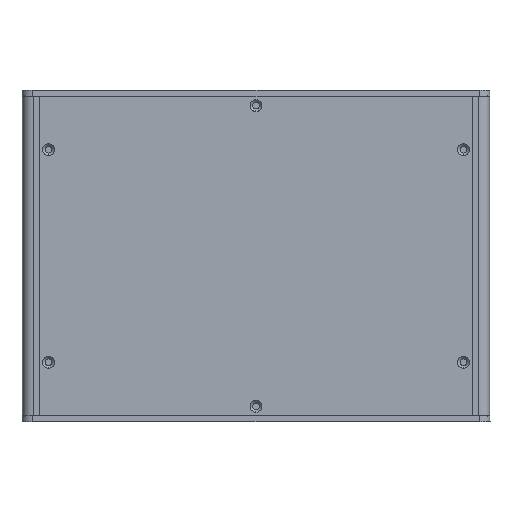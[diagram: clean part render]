
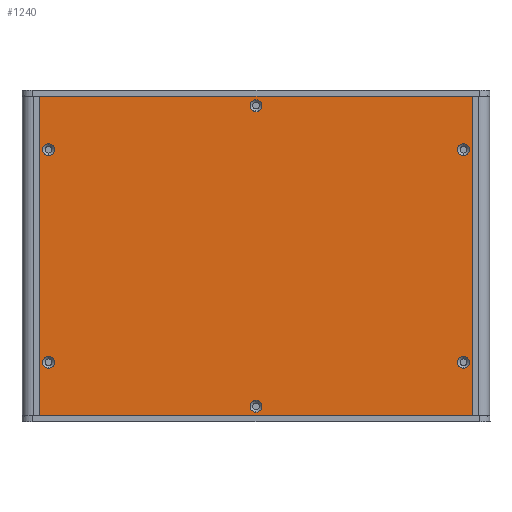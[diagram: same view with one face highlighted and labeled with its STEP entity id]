
A CAD part, front view. The second image highlights one B-rep face of the part: STEP entity #1240.
In plain terms, the highlighted planar face has unit normal (0, -1, 0) as drawn and (0, 1, 0) by its records, which use the part's own axes.
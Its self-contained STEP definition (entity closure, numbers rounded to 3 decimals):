
#4 = CARTESIAN_POINT ( 'NONE',  ( 0., 0.75, 70.7 ) ) ;
#118 = AXIS2_PLACEMENT_3D ( 'NONE', #3362, #3426, #4374 ) ;
#139 = EDGE_CURVE ( 'NONE', #534, #1957, #2498, .T. ) ;
#190 = VERTEX_POINT ( 'NONE', #906 ) ;
#219 = AXIS2_PLACEMENT_3D ( 'NONE', #4440, #3947, #2240 ) ;
#261 = CIRCLE ( 'NONE', #5099, 2.8 ) ;
#304 = AXIS2_PLACEMENT_3D ( 'NONE', #2742, #4607, #1965 ) ;
#319 = CARTESIAN_POINT ( 'NONE',  ( 0., 0.75, -73.5 ) ) ;
#362 = EDGE_CURVE ( 'NONE', #5701, #4571, #5600, .T. ) ;
#415 = ORIENTED_EDGE ( 'NONE', *, *, #2242, .F. ) ;
#419 = CARTESIAN_POINT ( 'NONE',  ( 0., 0.75, 73.5 ) ) ;
#460 = EDGE_CURVE ( 'NONE', #1957, #534, #960, .T. ) ;
#496 = DIRECTION ( 'NONE',  ( 0., -1., 0. ) ) ;
#534 = VERTEX_POINT ( 'NONE', #5718 ) ;
#545 = DIRECTION ( 'NONE',  ( -1., 0., 0. ) ) ;
#554 = CARTESIAN_POINT ( 'NONE',  ( -97.5, 0.75, 47.2 ) ) ;
#567 = CARTESIAN_POINT ( 'NONE',  ( -97.5, 0.75, 52.8 ) ) ;
#612 = VERTEX_POINT ( 'NONE', #419 ) ;
#685 = DIRECTION ( 'NONE',  ( 0., 0., 1. ) ) ;
#714 = VECTOR ( 'NONE', #5290, 1000. ) ;
#794 = VERTEX_POINT ( 'NONE', #2417 ) ;
#906 = CARTESIAN_POINT ( 'NONE',  ( -101.6, 0.75, 75. ) ) ;
#960 = CIRCLE ( 'NONE', #979, 2.8 ) ;
#979 = AXIS2_PLACEMENT_3D ( 'NONE', #5183, #2066, #2931 ) ;
#985 = CARTESIAN_POINT ( 'NONE',  ( 0., 0.75, -70.7 ) ) ;
#1003 = CARTESIAN_POINT ( 'NONE',  ( -97.5, 0.75, -52.8 ) ) ;
#1157 = CARTESIAN_POINT ( 'NONE',  ( -101.6, 0.75, -75. ) ) ;
#1199 = VERTEX_POINT ( 'NONE', #3785 ) ;
#1240 = ADVANCED_FACE ( 'NONE', ( #2800, #3240, #3300, #4636, #5104, #1906, #2768 ), #4226, .T. ) ;
#1245 = EDGE_CURVE ( 'NONE', #4200, #3097, #2687, .T. ) ;
#1257 = VERTEX_POINT ( 'NONE', #4546 ) ;
#1320 = CARTESIAN_POINT ( 'NONE',  ( 97.5, 0.75, -50. ) ) ;
#1340 = EDGE_CURVE ( 'NONE', #4581, #1199, #1832, .T. ) ;
#1380 = DIRECTION ( 'NONE',  ( 0., -1., 0. ) ) ;
#1395 = DIRECTION ( 'NONE',  ( 0., 0., 1. ) ) ;
#1441 = CARTESIAN_POINT ( 'NONE',  ( 101.6, 0.75, -75. ) ) ;
#1460 = AXIS2_PLACEMENT_3D ( 'NONE', #2125, #2097, #4827 ) ;
#1479 = DIRECTION ( 'NONE',  ( 0., 0., 1. ) ) ;
#1498 = EDGE_CURVE ( 'NONE', #1257, #612, #4872, .T. ) ;
#1751 = CARTESIAN_POINT ( 'NONE',  ( 0., 0.75, 70.7 ) ) ;
#1793 = VECTOR ( 'NONE', #685, 1000. ) ;
#1831 = ORIENTED_EDGE ( 'NONE', *, *, #5427, .T. ) ;
#1832 = CIRCLE ( 'NONE', #118, 2.8 ) ;
#1847 = CARTESIAN_POINT ( 'NONE',  ( 97.5, 0.75, 52.8 ) ) ;
#1848 = CARTESIAN_POINT ( 'NONE',  ( -97.5, 0.75, -50. ) ) ;
#1906 = FACE_BOUND ( 'NONE', #3599, .T. ) ;
#1957 = VERTEX_POINT ( 'NONE', #5501 ) ;
#1965 = DIRECTION ( 'NONE',  ( 0., 0., 1. ) ) ;
#1988 = DIRECTION ( 'NONE',  ( 0., -1., 0. ) ) ;
#2066 = DIRECTION ( 'NONE',  ( 0., -1., 0. ) ) ;
#2097 = DIRECTION ( 'NONE',  ( 0., -1., 0. ) ) ;
#2114 = CARTESIAN_POINT ( 'NONE',  ( -97.5, 0.75, -47.2 ) ) ;
#2125 = CARTESIAN_POINT ( 'NONE',  ( -97.5, 0.75, 50. ) ) ;
#2203 = EDGE_CURVE ( 'NONE', #612, #1257, #3748, .T. ) ;
#2220 = VECTOR ( 'NONE', #545, 1000. ) ;
#2240 = DIRECTION ( 'NONE',  ( 0., 0., 1. ) ) ;
#2242 = EDGE_CURVE ( 'NONE', #2501, #190, #2816, .T. ) ;
#2401 = EDGE_CURVE ( 'NONE', #5750, #5249, #3565, .T. ) ;
#2417 = CARTESIAN_POINT ( 'NONE',  ( 97.5, 0.75, 47.2 ) ) ;
#2498 = CIRCLE ( 'NONE', #2591, 2.8 ) ;
#2501 = VERTEX_POINT ( 'NONE', #5785 ) ;
#2536 = LINE ( 'NONE', #1157, #1793 ) ;
#2553 = EDGE_LOOP ( 'NONE', ( #5107, #3924 ) ) ;
#2556 = EDGE_LOOP ( 'NONE', ( #4523, #4389 ) ) ;
#2591 = AXIS2_PLACEMENT_3D ( 'NONE', #1320, #2692, #3084 ) ;
#2648 = EDGE_CURVE ( 'NONE', #794, #4320, #4786, .T. ) ;
#2687 = CIRCLE ( 'NONE', #4302, 2.8 ) ;
#2692 = DIRECTION ( 'NONE',  ( 0., -1., 0. ) ) ;
#2742 = CARTESIAN_POINT ( 'NONE',  ( -101.6, 0.75, -75. ) ) ;
#2747 = DIRECTION ( 'NONE',  ( 0., -1., 0. ) ) ;
#2768 = FACE_OUTER_BOUND ( 'NONE', #5362, .T. ) ;
#2775 = DIRECTION ( 'NONE',  ( 0., 0., 1. ) ) ;
#2800 = FACE_BOUND ( 'NONE', #2553, .T. ) ;
#2816 = LINE ( 'NONE', #4623, #3944 ) ;
#2857 = ORIENTED_EDGE ( 'NONE', *, *, #5624, .F. ) ;
#2931 = DIRECTION ( 'NONE',  ( 0., 0., 1. ) ) ;
#2972 = EDGE_LOOP ( 'NONE', ( #5273, #3195 ) ) ;
#3033 = CIRCLE ( 'NONE', #4646, 2.8 ) ;
#3059 = DIRECTION ( 'NONE',  ( 0., -1., 0. ) ) ;
#3084 = DIRECTION ( 'NONE',  ( 0., 0., 1. ) ) ;
#3097 = VERTEX_POINT ( 'NONE', #1003 ) ;
#3140 = DIRECTION ( 'NONE',  ( 0., -1., 0. ) ) ;
#3175 = ORIENTED_EDGE ( 'NONE', *, *, #1340, .T. ) ;
#3195 = ORIENTED_EDGE ( 'NONE', *, *, #2648, .T. ) ;
#3237 = DIRECTION ( 'NONE',  ( 0., 0., 1. ) ) ;
#3240 = FACE_BOUND ( 'NONE', #5142, .T. ) ;
#3300 = FACE_BOUND ( 'NONE', #2972, .T. ) ;
#3323 = ORIENTED_EDGE ( 'NONE', *, *, #362, .T. ) ;
#3362 = CARTESIAN_POINT ( 'NONE',  ( 0., 0.75, -70.7 ) ) ;
#3426 = DIRECTION ( 'NONE',  ( 0., -1., 0. ) ) ;
#3491 = CARTESIAN_POINT ( 'NONE',  ( 101.6, 0.75, -75. ) ) ;
#3551 = AXIS2_PLACEMENT_3D ( 'NONE', #4, #1380, #5852 ) ;
#3565 = CIRCLE ( 'NONE', #1460, 2.8 ) ;
#3568 = DIRECTION ( 'NONE',  ( 0., 0., 1. ) ) ;
#3571 = CIRCLE ( 'NONE', #5555, 2.8 ) ;
#3599 = EDGE_LOOP ( 'NONE', ( #4831, #3789 ) ) ;
#3637 = EDGE_CURVE ( 'NONE', #5249, #5750, #4879, .T. ) ;
#3691 = DIRECTION ( 'NONE',  ( 0., -1., 0. ) ) ;
#3696 = DIRECTION ( 'NONE',  ( 0., 0., 1. ) ) ;
#3748 = CIRCLE ( 'NONE', #3551, 2.8 ) ;
#3785 = CARTESIAN_POINT ( 'NONE',  ( 0., 0.75, -67.9 ) ) ;
#3789 = ORIENTED_EDGE ( 'NONE', *, *, #4390, .T. ) ;
#3848 = EDGE_CURVE ( 'NONE', #1199, #4581, #261, .T. ) ;
#3924 = ORIENTED_EDGE ( 'NONE', *, *, #1498, .T. ) ;
#3944 = VECTOR ( 'NONE', #5424, 1000. ) ;
#3947 = DIRECTION ( 'NONE',  ( 0., -1., 0. ) ) ;
#4049 = ORIENTED_EDGE ( 'NONE', *, *, #3637, .T. ) ;
#4194 = CARTESIAN_POINT ( 'NONE',  ( 97.5, 0.75, 50. ) ) ;
#4200 = VERTEX_POINT ( 'NONE', #2114 ) ;
#4226 = PLANE ( 'NONE',  #304 ) ;
#4240 = CARTESIAN_POINT ( 'NONE',  ( -101.6, 0.75, -75. ) ) ;
#4302 = AXIS2_PLACEMENT_3D ( 'NONE', #1848, #496, #3696 ) ;
#4320 = VERTEX_POINT ( 'NONE', #1847 ) ;
#4371 = EDGE_LOOP ( 'NONE', ( #4049, #4778 ) ) ;
#4374 = DIRECTION ( 'NONE',  ( 0., 0., 1. ) ) ;
#4389 = ORIENTED_EDGE ( 'NONE', *, *, #460, .T. ) ;
#4390 = EDGE_CURVE ( 'NONE', #3097, #4200, #3033, .T. ) ;
#4400 = AXIS2_PLACEMENT_3D ( 'NONE', #1751, #3059, #3568 ) ;
#4440 = CARTESIAN_POINT ( 'NONE',  ( -97.5, 0.75, 50. ) ) ;
#4471 = CARTESIAN_POINT ( 'NONE',  ( 97.5, 0.75, 50. ) ) ;
#4523 = ORIENTED_EDGE ( 'NONE', *, *, #139, .T. ) ;
#4546 = CARTESIAN_POINT ( 'NONE',  ( 0., 0.75, 67.9 ) ) ;
#4571 = VERTEX_POINT ( 'NONE', #5738 ) ;
#4581 = VERTEX_POINT ( 'NONE', #319 ) ;
#4607 = DIRECTION ( 'NONE',  ( 0., 1., 0. ) ) ;
#4623 = CARTESIAN_POINT ( 'NONE',  ( -101.6, 0.75, 75. ) ) ;
#4636 = FACE_BOUND ( 'NONE', #2556, .T. ) ;
#4646 = AXIS2_PLACEMENT_3D ( 'NONE', #5560, #1988, #1479 ) ;
#4778 = ORIENTED_EDGE ( 'NONE', *, *, #2401, .T. ) ;
#4786 = CIRCLE ( 'NONE', #5548, 2.8 ) ;
#4827 = DIRECTION ( 'NONE',  ( 0., 0., 1. ) ) ;
#4831 = ORIENTED_EDGE ( 'NONE', *, *, #1245, .T. ) ;
#4872 = CIRCLE ( 'NONE', #4400, 2.8 ) ;
#4879 = CIRCLE ( 'NONE', #219, 2.8 ) ;
#4959 = LINE ( 'NONE', #3491, #714 ) ;
#5068 = ORIENTED_EDGE ( 'NONE', *, *, #3848, .T. ) ;
#5099 = AXIS2_PLACEMENT_3D ( 'NONE', #985, #2747, #1395 ) ;
#5104 = FACE_BOUND ( 'NONE', #4371, .T. ) ;
#5107 = ORIENTED_EDGE ( 'NONE', *, *, #2203, .T. ) ;
#5142 = EDGE_LOOP ( 'NONE', ( #5068, #3175 ) ) ;
#5183 = CARTESIAN_POINT ( 'NONE',  ( 97.5, 0.75, -50. ) ) ;
#5249 = VERTEX_POINT ( 'NONE', #567 ) ;
#5273 = ORIENTED_EDGE ( 'NONE', *, *, #5733, .T. ) ;
#5290 = DIRECTION ( 'NONE',  ( 0., 0., 1. ) ) ;
#5362 = EDGE_LOOP ( 'NONE', ( #415, #2857, #3323, #1831 ) ) ;
#5424 = DIRECTION ( 'NONE',  ( -1., 0., 0. ) ) ;
#5427 = EDGE_CURVE ( 'NONE', #4571, #190, #2536, .T. ) ;
#5501 = CARTESIAN_POINT ( 'NONE',  ( 97.5, 0.75, -52.8 ) ) ;
#5548 = AXIS2_PLACEMENT_3D ( 'NONE', #4471, #3140, #2775 ) ;
#5555 = AXIS2_PLACEMENT_3D ( 'NONE', #4194, #3691, #3237 ) ;
#5560 = CARTESIAN_POINT ( 'NONE',  ( -97.5, 0.75, -50. ) ) ;
#5600 = LINE ( 'NONE', #4240, #2220 ) ;
#5624 = EDGE_CURVE ( 'NONE', #5701, #2501, #4959, .T. ) ;
#5701 = VERTEX_POINT ( 'NONE', #1441 ) ;
#5718 = CARTESIAN_POINT ( 'NONE',  ( 97.5, 0.75, -47.2 ) ) ;
#5733 = EDGE_CURVE ( 'NONE', #4320, #794, #3571, .T. ) ;
#5738 = CARTESIAN_POINT ( 'NONE',  ( -101.6, 0.75, -75. ) ) ;
#5750 = VERTEX_POINT ( 'NONE', #554 ) ;
#5785 = CARTESIAN_POINT ( 'NONE',  ( 101.6, 0.75, 75. ) ) ;
#5852 = DIRECTION ( 'NONE',  ( 0., 0., 1. ) ) ;
